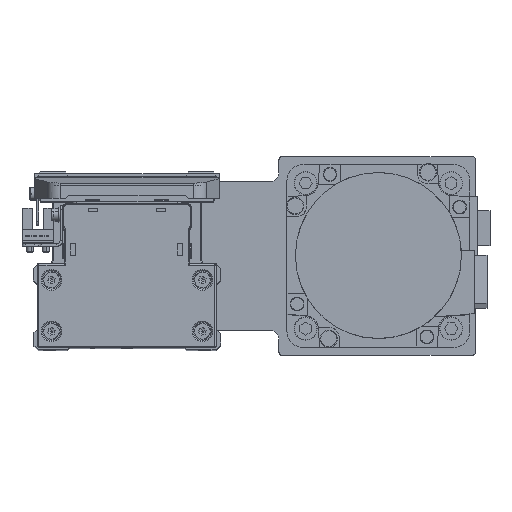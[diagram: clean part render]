
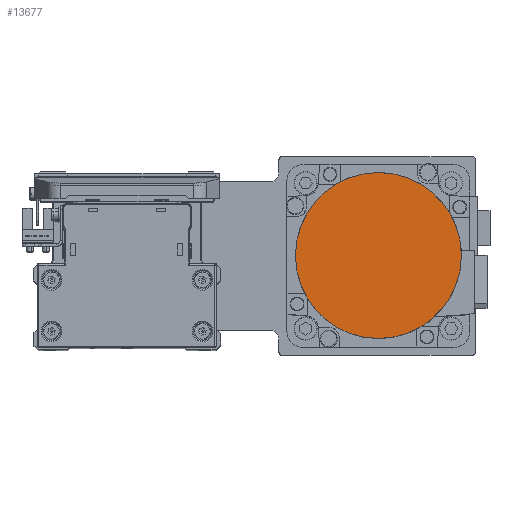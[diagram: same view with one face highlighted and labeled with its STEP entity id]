
A CAD part, top view. The second image highlights one B-rep face of the part: STEP entity #13677.
In plain terms, the highlighted planar face has unit normal (0, 0, 1) as drawn and (0, 0, -1) by its records, which use the part's own axes.
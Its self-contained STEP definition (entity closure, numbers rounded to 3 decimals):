
#1009 = CIRCLE ( 'NONE', #23001, 36.3 ) ;
#7747 = AXIS2_PLACEMENT_3D ( 'NONE', #37821, #10830, #22832 ) ;
#10233 = ORIENTED_EDGE ( 'NONE', *, *, #32445, .F. ) ;
#10373 = CIRCLE ( 'NONE', #32392, 36.3 ) ;
#10830 = DIRECTION ( 'NONE',  ( 0., 0., 1. ) ) ;
#11427 = DIRECTION ( 'NONE',  ( 0., -1., 0. ) ) ;
#13677 = ADVANCED_FACE ( 'NONE', ( #13800 ), #25804, .F. ) ;
#13800 = FACE_OUTER_BOUND ( 'NONE', #27465, .T. ) ;
#16249 = DIRECTION ( 'NONE',  ( 0., 0., 1. ) ) ;
#21833 = CARTESIAN_POINT ( 'NONE',  ( 0., 36.3, -122.2 ) ) ;
#22832 = DIRECTION ( 'NONE',  ( 1., 0., 0. ) ) ;
#23001 = AXIS2_PLACEMENT_3D ( 'NONE', #26396, #38415, #11427 ) ;
#24035 = ORIENTED_EDGE ( 'NONE', *, *, #36042, .F. ) ;
#25804 = PLANE ( 'NONE',  #7747 ) ;
#26396 = CARTESIAN_POINT ( 'NONE',  ( 0., 0., -122.2 ) ) ;
#27465 = EDGE_LOOP ( 'NONE', ( #10233, #24035 ) ) ;
#28273 = DIRECTION ( 'NONE',  ( 0., 1., 0. ) ) ;
#32392 = AXIS2_PLACEMENT_3D ( 'NONE', #34160, #16249, #28273 ) ;
#32445 = EDGE_CURVE ( 'NONE', #36208, #37092, #10373, .T. ) ;
#33180 = CARTESIAN_POINT ( 'NONE',  ( 0., -36.3, -122.2 ) ) ;
#34160 = CARTESIAN_POINT ( 'NONE',  ( 0., 0., -122.2 ) ) ;
#36042 = EDGE_CURVE ( 'NONE', #37092, #36208, #1009, .T. ) ;
#36208 = VERTEX_POINT ( 'NONE', #21833 ) ;
#37092 = VERTEX_POINT ( 'NONE', #33180 ) ;
#37821 = CARTESIAN_POINT ( 'NONE',  ( 0., 0., -122.2 ) ) ;
#38415 = DIRECTION ( 'NONE',  ( 0., 0., 1. ) ) ;
